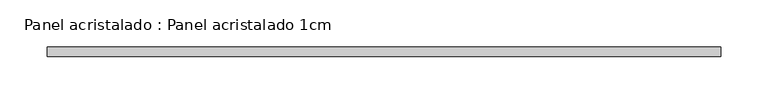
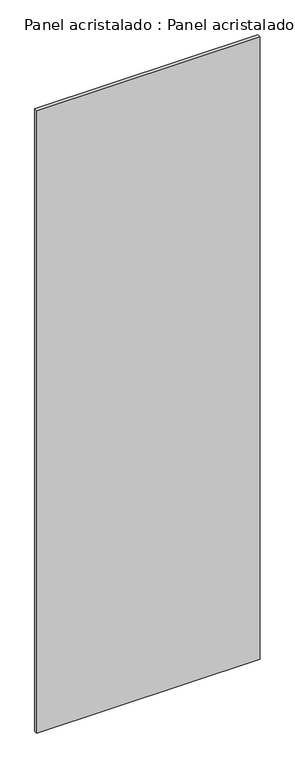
"""IFC4 building model written with IfcOpenShell, lengths in millimetres: plate geometry, Panel acristalado : Panel acristalado 1cm."""

from ifc_helpers import new_model, si_unit, origin, origin_with_axes, place, context, project, spatial, polyline, outline, extrude, source, transform, mapped, element, save


def panel_acristalado_panel_acristalado_1cm_f2517264(model_context):
    return source(origin(), model_context, "Body", "SweptSolid", [
        extrude(outline(polyline([(356.7361322, -20.0), (356.7361322, -30.0), (-356.7361322, -30.0), (-356.7361322, -20.0), (356.7361322, -20.0)])), origin_with_axes(), (0.0, 0.0, 1.0), 2100.0),
    ])


if __name__ == "__main__":
    model = new_model("IFC4")
    model_context = context("Model", 3, world=origin())
    ifc_project = project(units=[si_unit("LENGTHUNIT", "METRE", prefix="MILLI")], contexts=[model_context])
    site = spatial("IfcSite", under=ifc_project)
    building = spatial("IfcBuilding", under=site)
    placement = place(None, origin())
    panel_acristalado_panel_acristalado_1cm_shape = panel_acristalado_panel_acristalado_1cm_f2517264(model_context)
    element("IfcPlate", 1, ObjectType="Panel acristalado : Panel acristalado 1cm", at=placement, inside=building, context=model_context, shape_type="MappedRepresentation", body=[
        mapped(panel_acristalado_panel_acristalado_1cm_shape, transform((0.0, 0.0, 0.0), x_axis=(1.0, 0.0, 0.0), y_axis=(0.0, 1.0, 0.0), z_axis=(0.0, 0.0, 1.0))),
    ])
    save(model, "model.ifc")
